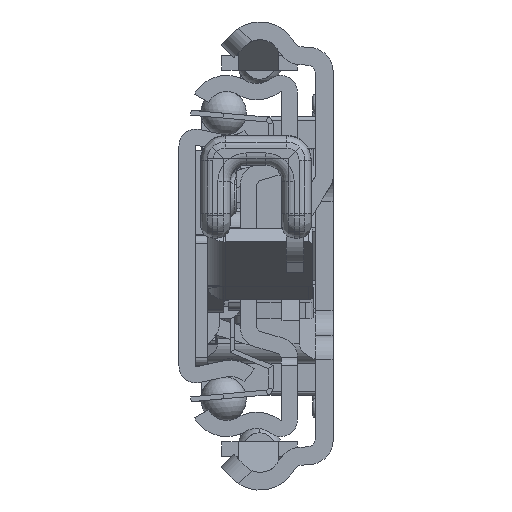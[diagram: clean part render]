
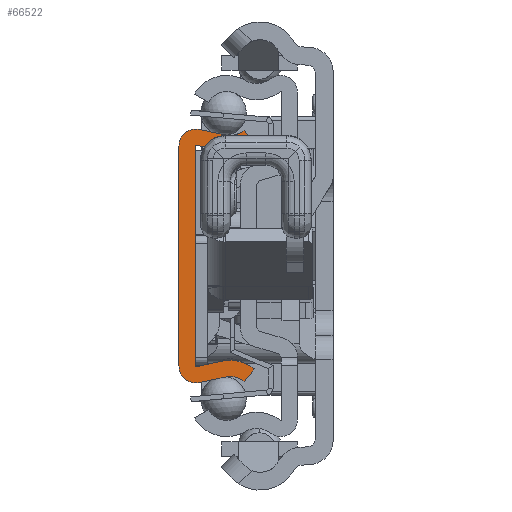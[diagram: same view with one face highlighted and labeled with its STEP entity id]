
A CAD part, left-side view. The second image highlights one B-rep face of the part: STEP entity #66522.
In plain terms, the highlighted planar face has unit normal (-1, 0, 0).
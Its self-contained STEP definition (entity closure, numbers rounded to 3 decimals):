
#61295=CARTESIAN_POINT('',(0.,-6.29,-17.65));
#61296=DIRECTION('',(-1.,0.,0.));
#61297=DIRECTION('',(0.,-0.629,0.778));
#61298=AXIS2_PLACEMENT_3D('',#61295,#61296,#61297);
#61300=DIRECTION('',(0.,0.977,-0.213));
#61301=VECTOR('',#61300,3.218);
#61302=CARTESIAN_POINT('',(0.,-5.692,-14.915));
#61303=LINE('',#61302,#61301);
#61304=CARTESIAN_POINT('',(0.,-2.1,-13.55));
#61305=DIRECTION('',(1.,0.,0.));
#61306=DIRECTION('',(0.,-0.213,-0.977));
#61307=AXIS2_PLACEMENT_3D('',#61304,#61305,#61306);
#61309=DIRECTION('',(0.,0.,1.));
#61310=VECTOR('',#61309,27.1);
#61311=CARTESIAN_POINT('',(0.,0.,-13.55));
#61312=LINE('',#61311,#61310);
#61313=CARTESIAN_POINT('',(0.,-2.1,13.55));
#61314=DIRECTION('',(1.,0.,0.));
#61315=DIRECTION('',(0.,1.,0.));
#61316=AXIS2_PLACEMENT_3D('',#61313,#61314,#61315);
#61318=DIRECTION('',(0.,-0.977,-0.213));
#61319=VECTOR('',#61318,3.218);
#61320=CARTESIAN_POINT('',(0.,-2.548,15.602));
#61321=LINE('',#61320,#61319);
#61322=CARTESIAN_POINT('',(0.,-6.29,17.65));
#61323=DIRECTION('',(-1.,0.,0.));
#61324=DIRECTION('',(0.,0.213,-0.977));
#61325=AXIS2_PLACEMENT_3D('',#61322,#61323,#61324);
#61327=DIRECTION('',(0.,-0.629,-0.778));
#61328=VECTOR('',#61327,2.);
#61329=CARTESIAN_POINT('',(0.,-8.05,15.472));
#61330=LINE('',#61329,#61328);
#61331=CARTESIAN_POINT('',(0.,-6.29,17.65));
#61332=DIRECTION('',(1.,0.,0.));
#61333=DIRECTION('',(0.,-0.629,-0.778));
#61334=AXIS2_PLACEMENT_3D('',#61331,#61332,#61333);
#61336=DIRECTION('',(0.,0.977,0.213));
#61337=VECTOR('',#61336,3.218);
#61338=CARTESIAN_POINT('',(0.,-5.265,12.961));
#61339=LINE('',#61338,#61337);
#61340=CARTESIAN_POINT('',(0.,-2.1,13.55));
#61341=DIRECTION('',(-1.,0.,0.));
#61342=DIRECTION('',(0.,-0.213,0.977));
#61343=AXIS2_PLACEMENT_3D('',#61340,#61341,#61342);
#61345=DIRECTION('',(0.,0.,-1.));
#61346=VECTOR('',#61345,27.1);
#61347=CARTESIAN_POINT('',(0.,-2.,13.55));
#61348=LINE('',#61347,#61346);
#61349=CARTESIAN_POINT('',(0.,-2.1,-13.55));
#61350=DIRECTION('',(-1.,0.,0.));
#61351=DIRECTION('',(0.,1.,0.));
#61352=AXIS2_PLACEMENT_3D('',#61349,#61350,#61351);
#61354=DIRECTION('',(0.,-0.977,0.213));
#61355=VECTOR('',#61354,3.218);
#61356=CARTESIAN_POINT('',(0.,-2.121,-13.648));
#61357=LINE('',#61356,#61355);
#61358=CARTESIAN_POINT('',(0.,-6.29,-17.65));
#61359=DIRECTION('',(1.,0.,0.));
#61360=DIRECTION('',(0.,0.213,0.977));
#61361=AXIS2_PLACEMENT_3D('',#61358,#61359,#61360);
#61363=DIRECTION('',(0.,0.629,-0.778));
#61364=VECTOR('',#61363,2.);
#61365=CARTESIAN_POINT('',(0.,-9.307,-13.917));
#61366=LINE('',#61365,#61364);
#65016=CARTESIAN_POINT('',(0.,-8.05,-15.472));
#65017=CARTESIAN_POINT('',(0.,-5.692,-14.915));
#65018=VERTEX_POINT('',#65016);
#65019=VERTEX_POINT('',#65017);
#65020=CARTESIAN_POINT('',(0.,-2.548,-15.602));
#65021=VERTEX_POINT('',#65020);
#65022=CARTESIAN_POINT('',(0.,0.,-13.55));
#65023=VERTEX_POINT('',#65022);
#65024=CARTESIAN_POINT('',(0.,0.,13.55));
#65025=VERTEX_POINT('',#65024);
#65026=CARTESIAN_POINT('',(0.,-2.548,15.602));
#65027=VERTEX_POINT('',#65026);
#65028=CARTESIAN_POINT('',(0.,-5.692,14.915));
#65029=VERTEX_POINT('',#65028);
#65030=CARTESIAN_POINT('',(0.,-8.05,15.472));
#65031=VERTEX_POINT('',#65030);
#65032=CARTESIAN_POINT('',(0.,-9.307,13.917));
#65033=VERTEX_POINT('',#65032);
#65034=CARTESIAN_POINT('',(0.,-5.265,12.961));
#65035=VERTEX_POINT('',#65034);
#65036=CARTESIAN_POINT('',(0.,-2.121,13.648));
#65037=VERTEX_POINT('',#65036);
#65038=CARTESIAN_POINT('',(0.,-2.,13.55));
#65039=VERTEX_POINT('',#65038);
#65040=CARTESIAN_POINT('',(0.,-2.,-13.55));
#65041=VERTEX_POINT('',#65040);
#65042=CARTESIAN_POINT('',(0.,-2.121,-13.648));
#65043=VERTEX_POINT('',#65042);
#65044=CARTESIAN_POINT('',(0.,-5.265,-12.961));
#65045=VERTEX_POINT('',#65044);
#65046=CARTESIAN_POINT('',(0.,-9.307,-13.917));
#65047=VERTEX_POINT('',#65046);
#66484=CARTESIAN_POINT('',(0.,0.,0.));
#66485=DIRECTION('',(1.,0.,0.));
#66486=DIRECTION('',(0.,-1.,0.));
#66487=AXIS2_PLACEMENT_3D('',#66484,#66485,#66486);
#66488=PLANE('',#66487);
#66490=ORIENTED_EDGE('',*,*,#66489,.T.);
#66492=ORIENTED_EDGE('',*,*,#66491,.T.);
#66494=ORIENTED_EDGE('',*,*,#66493,.T.);
#66495=ORIENTED_EDGE('',*,*,#66072,.T.);
#66497=ORIENTED_EDGE('',*,*,#66496,.T.);
#66499=ORIENTED_EDGE('',*,*,#66498,.T.);
#66501=ORIENTED_EDGE('',*,*,#66500,.T.);
#66503=ORIENTED_EDGE('',*,*,#66502,.T.);
#66505=ORIENTED_EDGE('',*,*,#66504,.T.);
#66507=ORIENTED_EDGE('',*,*,#66506,.T.);
#66509=ORIENTED_EDGE('',*,*,#66508,.T.);
#66511=ORIENTED_EDGE('',*,*,#66510,.T.);
#66513=ORIENTED_EDGE('',*,*,#66512,.T.);
#66515=ORIENTED_EDGE('',*,*,#66514,.T.);
#66517=ORIENTED_EDGE('',*,*,#66516,.T.);
#66519=ORIENTED_EDGE('',*,*,#66518,.T.);
#66520=EDGE_LOOP('',(#66490,#66492,#66494,#66495,#66497,#66499,#66501,#66503,
#66505,#66507,#66509,#66511,#66513,#66515,#66517,#66519));
#66521=FACE_OUTER_BOUND('',#66520,.F.);
#61299=CIRCLE('',#61298,2.8);
#61308=CIRCLE('',#61307,2.1);
#61317=CIRCLE('',#61316,2.1);
#61326=CIRCLE('',#61325,2.8);
#61335=CIRCLE('',#61334,4.8);
#61344=CIRCLE('',#61343,0.1);
#61353=CIRCLE('',#61352,0.1);
#61362=CIRCLE('',#61361,4.8);
#66072=EDGE_CURVE('',#65023,#65025,#61312,.T.);
#66489=EDGE_CURVE('',#65018,#65019,#61299,.T.);
#66491=EDGE_CURVE('',#65019,#65021,#61303,.T.);
#66493=EDGE_CURVE('',#65021,#65023,#61308,.T.);
#66496=EDGE_CURVE('',#65025,#65027,#61317,.T.);
#66498=EDGE_CURVE('',#65027,#65029,#61321,.T.);
#66500=EDGE_CURVE('',#65029,#65031,#61326,.T.);
#66502=EDGE_CURVE('',#65031,#65033,#61330,.T.);
#66504=EDGE_CURVE('',#65033,#65035,#61335,.T.);
#66506=EDGE_CURVE('',#65035,#65037,#61339,.T.);
#66508=EDGE_CURVE('',#65037,#65039,#61344,.T.);
#66510=EDGE_CURVE('',#65039,#65041,#61348,.T.);
#66512=EDGE_CURVE('',#65041,#65043,#61353,.T.);
#66514=EDGE_CURVE('',#65043,#65045,#61357,.T.);
#66516=EDGE_CURVE('',#65045,#65047,#61362,.T.);
#66518=EDGE_CURVE('',#65047,#65018,#61366,.T.);
#66522=ADVANCED_FACE('',(#66521),#66488,.F.);
